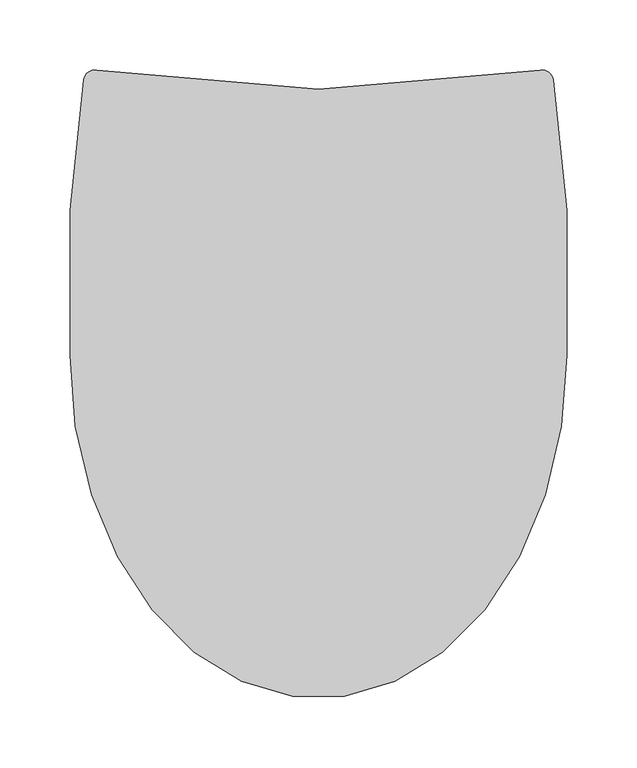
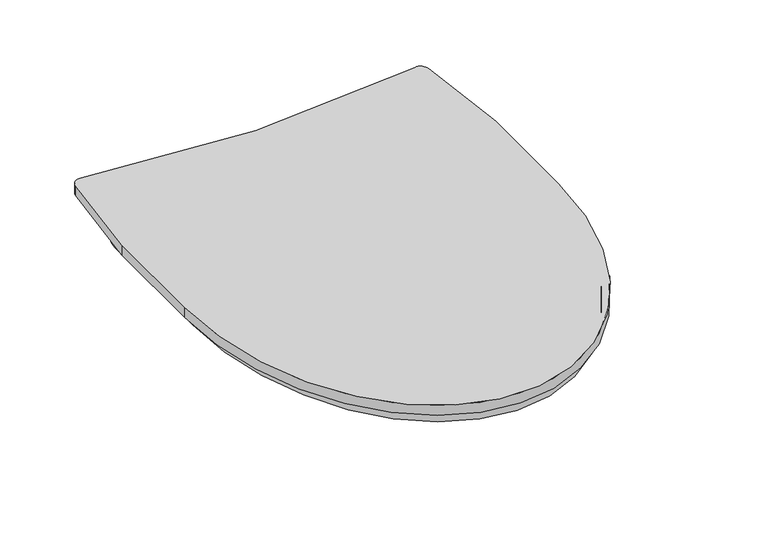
"""IFC4 building model written with IfcOpenShell, lengths in millimetres: sanitary terminal geometry, NLRS_74_PF_FB_toiletzitting nautic_wisa : wit_wisa_toiletzitting nautic."""

import ifcopenshell
import ifcopenshell.guid

model = None  # the IFC model being written
_history = None  # IfcOwnerHistory: only IFC2X3 demands one
_inside = {}  # id of a spatial element -> (the spatial element, [elements in it])
_under = {}  # id of a project, library or spatial element -> (it, [spatial elements below it])
_declared = {}  # id of a project -> (the project, [libraries it declares])
_typed = {}  # id of a type object -> (the type object, [elements of that type])
_made_of = {}  # id of a material, layer set ... -> (it, [elements and type objects made of it])


def new_model(schema):
    """Start an empty IFC model of exactly this schema.

    Asked for "IFC4X3", IfcOpenShell would pick the latest addendum, in which some entities
    have other attributes; the version numbers below select the first issue.
    IFC2X3 requires an IfcOwnerHistory on every rooted entity: one is made here for all.
    """
    global model, _history
    if schema == "IFC4X3":
        model = ifcopenshell.file(schema_version=(4, 3, 0, 0))
    else:
        model = ifcopenshell.file(schema=schema)
    _inside.clear()
    _under.clear()
    _declared.clear()
    _typed.clear()
    _made_of.clear()
    _history = None
    if model.schema == "IFC2X3":
        org = make("IfcOrganization", Name="unknown")
        user = make(
            "IfcPersonAndOrganization",
            ThePerson=make("IfcPerson", FamilyName="unknown"),
            TheOrganization=org,
        )
        app = make(
            "IfcApplication",
            ApplicationDeveloper=org,
            Version="unknown",
            ApplicationFullName="unknown",
            ApplicationIdentifier="unknown",
        )
        _history = make(
            "IfcOwnerHistory",
            OwningUser=user,
            OwningApplication=app,
            ChangeAction="ADDED",
            CreationDate=0,
        )
    return model


def make(cls, **values):
    """One entity of the class cls with the attributes given. An attribute that is None is left unset."""
    return model.create_entity(
        cls, **{name: value for name, value in values.items() if value is not None}
    )


def rooted(cls, **values):
    """An entity with a GlobalId (a new one), such as an element, a storey or a relation."""
    return make(cls, GlobalId=ifcopenshell.guid.new(), OwnerHistory=_history, **values)


def si_unit(unit_type, name, prefix=None):
    """IfcSIUnit, for example si_unit("LENGTHUNIT", "METRE", prefix="MILLI")."""
    return make("IfcSIUnit", UnitType=unit_type, Prefix=prefix, Name=name)


def assignment(units):
    """IfcUnitAssignment: the units of a project."""
    return None if units is None else make("IfcUnitAssignment", Units=units)


def point(xyz):
    """IfcCartesianPoint."""
    return None if xyz is None else make("IfcCartesianPoint", Coordinates=xyz)


def direction(xyz):
    """IfcDirection."""
    return None if xyz is None else make("IfcDirection", DirectionRatios=xyz)


def frame(location, z_axis=None, x_axis=None):
    """IfcAxis2Placement3D, a coordinate frame: its origin and axes. An axis left out is left unset."""
    return make(
        "IfcAxis2Placement3D",
        Location=point(location),
        Axis=direction(z_axis),
        RefDirection=direction(x_axis),
    )


def origin():
    """The frame at (0, 0, 0) with its axes left unset."""
    return frame((0.0, 0.0, 0.0))


def place(relative_to, where):
    """IfcLocalPlacement: puts the frame where relative to a parent placement (None: the world)."""
    return make(
        "IfcLocalPlacement", PlacementRelTo=relative_to, RelativePlacement=where
    )


def context(
    kind, dimensions, precision=None, world=None, true_north=None, identifier=None
):
    """IfcGeometricRepresentationContext, for example the 3D "Model" context."""
    return make(
        "IfcGeometricRepresentationContext",
        ContextIdentifier=identifier,
        ContextType=kind,
        CoordinateSpaceDimension=dimensions,
        Precision=precision,
        WorldCoordinateSystem=world,
        TrueNorth=true_north,
    )


def project(units=None, contexts=None):
    """IfcProject with its units and contexts."""
    return rooted(
        "IfcProject",
        Name="project",
        RepresentationContexts=contexts,
        UnitsInContext=assignment(units),
    )


def spatial(cls, under=None, at=None, **own):
    """A site, building, storey or space (cls), placed at a placement, below another one or the project."""
    s = rooted(cls, ObjectPlacement=at, **own)
    if under is not None:
        _under.setdefault(under.id(), (under, []))[1].append(s)
    return s


def polyline(points):
    """IfcPolyline through the points."""
    return make("IfcPolyline", Points=[point(p) for p in points])


def circle_curve(where, radius):
    """IfcCircle in the frame where."""
    return make("IfcCircle", Position=where, Radius=radius)


def ellipse_curve(where, semi_axis1, semi_axis2):
    """IfcEllipse in the frame where."""
    return make(
        "IfcEllipse", Position=where, SemiAxis1=semi_axis1, SemiAxis2=semi_axis2
    )


def trimmed(basis, trim1, trim2, sense, master):
    """IfcTrimmedCurve: the piece of a basis curve between two trims."""
    return make(
        "IfcTrimmedCurve",
        BasisCurve=basis,
        Trim1=trim1,
        Trim2=trim2,
        SenseAgreement=sense,
        MasterRepresentation=master,
    )


def shape(context_of_items, identifier, shape_type, items):
    """IfcShapeRepresentation: the items that make up one representation, for example the "Body"."""
    return make(
        "IfcShapeRepresentation",
        ContextOfItems=context_of_items,
        RepresentationIdentifier=identifier,
        RepresentationType=shape_type,
        Items=items,
    )


def source(mapping_origin, context_of_items, identifier, shape_type, items):
    """IfcRepresentationMap: a shape defined once, which mapped items show again and again."""
    return make(
        "IfcRepresentationMap",
        MappingOrigin=mapping_origin,
        MappedRepresentation=shape(context_of_items, identifier, shape_type, items),
    )


def transform(
    local_origin,
    x_axis=None,
    y_axis=None,
    z_axis=None,
    scale=None,
    scale2=None,
    scale3=None,
    uniform=True,
):
    """IfcCartesianTransformationOperator3D, or its non-uniform kind. x_axis, y_axis, z_axis: its Axis1, 2, 3."""
    if uniform:
        return make(
            "IfcCartesianTransformationOperator3D",
            Axis1=direction(x_axis),
            Axis2=direction(y_axis),
            LocalOrigin=point(local_origin),
            Scale=scale,
            Axis3=direction(z_axis),
        )
    return make(
        "IfcCartesianTransformationOperator3DnonUniform",
        Axis1=direction(x_axis),
        Axis2=direction(y_axis),
        LocalOrigin=point(local_origin),
        Scale=scale,
        Axis3=direction(z_axis),
        Scale2=scale2,
        Scale3=scale3,
    )


def mapped(mapping_source, mapping_target):
    """IfcMappedItem: shows the shape of a source again, moved by a transform."""
    return make(
        "IfcMappedItem", MappingSource=mapping_source, MappingTarget=mapping_target
    )


def made_of(thing, what):
    """Note that an element or type object is made of a material, layer set ...; save() writes the relation."""
    if what is not None:
        _made_of.setdefault(what.id(), (what, []))[1].append(thing)
    return thing


def element(
    cls,
    number,
    at=None,
    inside=None,
    cuts=None,
    type_object=None,
    material=None,
    context=None,
    identifier="Body",
    shape_type=None,
    held_by="IfcProductDefinitionShape",
    body=None,
    shapes=None,
    **own,
):
    """One element of the class cls, such as IfcWall. Its Tag is "e" and its number.

    at: its placement. inside: the storey or other place that contains it. cuts: it is an
    opening in that element (IfcRelVoidsElement). A single representation is given by context,
    identifier, shape_type and body (its items); several are given by shapes. held_by: the class
    of the entity that holds the representations. save() writes the other relations.
    """
    e = rooted(cls, Tag="e%d" % number, ObjectPlacement=at, **own)
    if body is not None:
        shapes = [shape(context, identifier, shape_type, body)]
    if shapes is not None:
        e.Representation = make(held_by, Representations=shapes)
    if inside is not None:
        _inside.setdefault(inside.id(), (inside, []))[1].append(e)
    if cuts is not None:
        rooted(
            "IfcRelVoidsElement", RelatingBuildingElement=cuts, RelatedOpeningElement=e
        )
    if type_object is not None:
        _typed.setdefault(type_object.id(), (type_object, []))[1].append(e)
    return made_of(e, material)


def aggregate(whole, parts):
    """IfcRelAggregates: a whole, such as a stair, and the parts it consists of."""
    return rooted("IfcRelAggregates", RelatingObject=whole, RelatedObjects=parts)


def save(model, path):
    """Write the relations noted so far, then the file.

    IfcRelAggregates (storeys below a building ...), IfcRelContainedInSpatialStructure (elements
    in a storey), IfcRelDefinesByType, IfcRelAssociatesMaterial and IfcRelDeclares: one each for
    every whole, place, type object, material and project.
    """
    for whole, parts in _under.values():
        aggregate(whole, parts)
    for where, things in _inside.values():
        rooted(
            "IfcRelContainedInSpatialStructure",
            RelatedElements=things,
            RelatingStructure=where,
        )
    for kind, things in _typed.values():
        rooted("IfcRelDefinesByType", RelatedObjects=things, RelatingType=kind)
    for what, things in _made_of.values():
        rooted("IfcRelAssociatesMaterial", RelatedObjects=things, RelatingMaterial=what)
    for by, libraries in _declared.values():
        rooted("IfcRelDeclares", RelatingContext=by, RelatedDefinitions=libraries)
    model.write(path)


def plane_surface(at):
    """IfcPlane: the flat surface through the origin of the frame at, square to its z axis."""
    return make("IfcPlane", Position=at)


def cylinder_surface(at, radius):
    """IfcCylindricalSurface: all points at the distance radius from the z axis of the frame at."""
    return make("IfcCylindricalSurface", Position=at, Radius=radius)


def revolved_surface(curve, axis_point, axis_direction):
    """IfcSurfaceOfRevolution: the curve turned about the line through axis_point along axis_direction."""
    return make(
        "IfcSurfaceOfRevolution",
        SweptCurve=make("IfcArbitraryOpenProfileDef", ProfileType="CURVE", Curve=curve),
        AxisPosition=make("IfcAxis1Placement", Location=point(axis_point), Axis=direction(axis_direction)),
    )


def extruded_surface(curve, direction_of_extrusion, depth):
    """IfcSurfaceOfLinearExtrusion: the curve pushed along a direction by depth."""
    return make(
        "IfcSurfaceOfLinearExtrusion",
        SweptCurve=make("IfcArbitraryOpenProfileDef", ProfileType="CURVE", Curve=curve),
        ExtrudedDirection=direction(direction_of_extrusion),
        Depth=depth,
    )


def advanced_brep(points, edges, surfaces, faces):
    """IfcAdvancedBrep: a solid bounded by faces that lie on surfaces and meet in shared edges.

    An edge is (start, end): straight between two places in points (the first is 0);
    or (start, end, curve); or (start, end, curve, False) where it runs against its curve.
    A face is (place in surfaces, loops), or (place, loops, False) where it looks against
    its surface's normal. A loop lists edges by number (the first is 1), with a minus sign
    where the edge is run from its end to its start. The first loop is the outer one.
    """
    corners = [point(p) for p in points]
    vertices = [make("IfcVertexPoint", VertexGeometry=c) for c in corners]
    made = []
    for start, end, *more in edges:
        made.append(
            make(
                "IfcEdgeCurve",
                EdgeStart=vertices[start],
                EdgeEnd=vertices[end],
                EdgeGeometry=more[0] if more else make("IfcPolyline", Points=[corners[start], corners[end]]),
                SameSense=more[1] if len(more) > 1 else True,
            )
        )
    hull = []
    for where, loops, *sense in faces:
        bounds = []
        for j, loop in enumerate(loops):
            ring = [make("IfcOrientedEdge", EdgeElement=made[abs(k) - 1], Orientation=k > 0) for k in loop]
            bounds.append(
                make(
                    "IfcFaceOuterBound" if j == 0 else "IfcFaceBound",
                    Bound=make("IfcEdgeLoop", EdgeList=ring),
                    Orientation=True,
                )
            )
        hull.append(make("IfcAdvancedFace", Bounds=bounds, FaceSurface=surfaces[where], SameSense=sense[0] if sense else True))
    return make("IfcAdvancedBrep", Outer=make("IfcClosedShell", CfsFaces=hull))


def sanitary_terminal_8e491f2c(model_context):
    return source(origin(), model_context, "Body", "AdvancedBrep", [
        advanced_brep(
        [(-177.5, -203.5020911, 10.0), (-177.5, -100.0151336, 10.0), (-167.7296209, -7.0561861, 10.0), (-158.4136562, 0.0, 10.0), (158.4136562, 0.0, 10.0), (167.7296209, -7.0561861, 10.0), (177.5, -100.0151336, 10.0), (177.5, -203.5020911, 10.0), (-177.5, -203.5020911, 20.0), (177.5, -203.5020911, 20.0), (177.5, -100.0151336, 20.0), (167.7296209, -7.0561861, 20.0), (158.4136562, 0.0, 20.0), (-158.4136562, 0.0, 20.0), (-167.7296209, -7.0561861, 20.0), (-177.5, -100.0151336, 20.0)],
        [
            (0, 1),
            (1, 2),
            (2, 3, circle_curve(frame((-159.7653271, -7.8932672, 10.0), z_axis=(0.0, 0.0, -1.0), x_axis=(1.0, 0.0, 0.0)), 8.0081634)),
            (3, 4, circle_curve(frame((0.0, 925.0781917, 10.0), z_axis=(0.0, 0.0, 1.0), x_axis=(1.0, 0.0, 0.0)), 938.543844)),
            (4, 5, circle_curve(frame((159.7653271, -7.8932672, 10.0), z_axis=(0.0, 0.0, -1.0), x_axis=(1.0, 0.0, 0.0)), 8.0081634)),
            (5, 6),
            (6, 7),
            (7, 0, ellipse_curve(frame((0.0, -203.5020911, 10.0), z_axis=(0.0, 0.0, -1.0), x_axis=(0.0, 1.0, 0.0)), 244.6771204, 177.5)),
            (8, 9, ellipse_curve(frame((0.0, -203.5020911, 20.0), z_axis=(0.0, 0.0, 1.0), x_axis=(0.0, 1.0, 0.0)), 244.6771204, 177.5)),
            (9, 10),
            (10, 11),
            (11, 12, circle_curve(frame((159.7653271, -7.8932672, 20.0), z_axis=(0.0, 0.0, 1.0), x_axis=(1.0, 0.0, 0.0)), 8.0081634)),
            (12, 13, circle_curve(frame((0.0, 925.0781917, 20.0), z_axis=(0.0, 0.0, -1.0), x_axis=(1.0, 0.0, 0.0)), 938.543844)),
            (13, 14, circle_curve(frame((-159.7653271, -7.8932672, 20.0), z_axis=(0.0, 0.0, 1.0), x_axis=(1.0, 0.0, 0.0)), 8.0081634)),
            (14, 15),
            (15, 8),
            (8, 0),
            (7, 9),
            (6, 10),
            (5, 11),
            (4, 12),
            (3, 13),
            (2, 14),
            (1, 15),
        ],
        [
            plane_surface(frame((0.0, 41.1750292, 10.0), z_axis=(0.0, 0.0, -1.0), x_axis=(1.0, 0.0, 0.0))),
            plane_surface(frame((0.0, 41.1750292, 20.0), z_axis=(0.0, 0.0, 1.0), x_axis=(-1.0, 0.0, 0.0))),
            extruded_surface(trimmed(ellipse_curve(frame((0.0, -203.5020911, 0.0), z_axis=(0.0, 0.0, 1.0), x_axis=(0.0, 1.0, 0.0)), 244.6771204, 177.5), [point((-177.5, -203.5020911, 0.0))], [point((177.5, -203.5020911, 0.0))], True, "CARTESIAN"), (0.0, 0.0, 10.0), 10.0),
            plane_surface(frame((177.5, -203.5020911, 20.0), z_axis=(1.0, 0.0, 0.0), x_axis=(0.0, 0.0, -1.0))),
            plane_surface(frame((177.5, -100.0151336, 20.0), z_axis=(0.9945218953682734, 0.10452846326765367, 0.0), x_axis=(0.0, 0.0, -1.0))),
            cylinder_surface(frame((159.7653271, -7.8932672, 10.0), z_axis=(0.0, 0.0, 1.0), x_axis=(1.0, 0.0, 0.0)), 8.0081634),
            revolved_surface(polyline([(938.543844, 925.0781917, 10.0), (938.543844, 925.0781917, 20.0)]), (0.0, 925.0781917, 10.0), (0.0, 0.0, -1.0)),
            cylinder_surface(frame((-159.7653271, -7.8932672, 10.0), z_axis=(0.0, 0.0, 1.0), x_axis=(1.0, 0.0, 0.0)), 8.0081634),
            plane_surface(frame((-167.7296209, -7.0561861, 20.0), z_axis=(-0.9945218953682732, 0.104528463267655, 0.0), x_axis=(0.0, 0.0, -1.0))),
            plane_surface(frame((-177.5, -100.0151336, 20.0), z_axis=(-1.0, 0.0, 0.0), x_axis=(0.0, 0.0, -1.0))),
        ],
        [
            (0, [[1, 2, 3, 4, 5, 6, 7, 8]]),
            (1, [[9, 10, 11, 12, 13, 14, 15, 16]]),
            (2, [[-9, 17, -8, 18]]),
            (3, [[-10, -18, -7, 19]]),
            (4, [[-11, -19, -6, 20]]),
            (5, [[-12, -20, -5, 21]]),
            (6, [[-13, -21, -4, 22]]),
            (7, [[-14, -22, -3, 23]]),
            (8, [[-15, -23, -2, 24]]),
            (9, [[-16, -24, -1, -17]]),
        ],
    ),
        advanced_brep(
        [(-170.0, -203.5020911, 10.0), (170.0, -203.5020911, 10.0), (170.0, -76.6974568, 10.0), (133.4173771, -40.1148339, 10.0), (116.6038173, -40.1148339, 10.0), (116.6038173, -6.1941084, 10.0), (-116.6038173, -6.1941084, 10.0), (-116.6038173, -40.1148339, 10.0), (-133.4173771, -40.1148339, 10.0), (-170.0, -76.6974568, 10.0), (-101.8045411, -203.5020911, 10.0), (101.8045411, -203.5020911, 10.0), (-170.0, -203.5020911, 0.0), (-170.0, -76.6974568, 0.0), (-133.4173771, -40.1148339, 0.0), (-116.6038173, -40.1148339, 0.0), (-116.6038173, -6.1941084, 0.0), (116.6038173, -6.1941084, 0.0), (116.6038173, -40.1148339, 0.0), (133.4173771, -40.1148339, 0.0), (170.0, -76.6974568, 0.0), (170.0, -203.5020911, 0.0), (-101.8045411, -203.5020911, 0.0), (101.8045411, -203.5020911, 0.0)],
        [
            (0, 1, ellipse_curve(frame((0.0, -203.5020911, 10.0), z_axis=(0.0, 0.0, 1.0), x_axis=(0.0, 1.0, 0.0)), 240.0, 170.0)),
            (1, 2),
            (2, 3, circle_curve(frame((133.4173771, -76.6974568, 10.0), z_axis=(0.0, 0.0, 1.0), x_axis=(1.0, 0.0, 0.0)), 36.5826229)),
            (3, 4),
            (4, 5),
            (5, 6, circle_curve(frame((0.0, 925.0781917, 10.0), z_axis=(0.0, 0.0, -1.0), x_axis=(1.0, 0.0, 0.0)), 938.543844)),
            (6, 7),
            (7, 8),
            (8, 9, circle_curve(frame((-133.4173771, -76.6974568, 10.0), z_axis=(0.0, 0.0, 1.0), x_axis=(1.0, 0.0, 0.0)), 36.5826229)),
            (9, 0),
            (10, 11, circle_curve(frame((0.0, -203.5020911, 10.0), z_axis=(0.0, 0.0, -1.0), x_axis=(1.0, 0.0, 0.0)), 101.8045411)),
            (11, 10, ellipse_curve(frame((0.0, -203.5020911, 10.0), z_axis=(0.0, 0.0, -1.0), x_axis=(0.0, 1.0, 0.0)), 190.0, 101.8045411)),
            (12, 13),
            (13, 14, circle_curve(frame((-133.4173771, -76.6974568, 0.0), z_axis=(0.0, 0.0, -1.0), x_axis=(1.0, 0.0, 0.0)), 36.5826229)),
            (14, 15),
            (15, 16),
            (16, 17, circle_curve(frame((0.0, 925.0781917, 0.0), z_axis=(0.0, 0.0, 1.0), x_axis=(1.0, 0.0, 0.0)), 938.543844)),
            (17, 18),
            (18, 19),
            (19, 20, circle_curve(frame((133.4173771, -76.6974568, 0.0), z_axis=(0.0, 0.0, -1.0), x_axis=(1.0, 0.0, 0.0)), 36.5826229)),
            (20, 21),
            (21, 12, ellipse_curve(frame((0.0, -203.5020911, 0.0), z_axis=(0.0, 0.0, -1.0), x_axis=(0.0, 1.0, 0.0)), 240.0, 170.0)),
            (22, 23, ellipse_curve(frame((0.0, -203.5020911, 0.0), z_axis=(0.0, 0.0, 1.0), x_axis=(0.0, 1.0, 0.0)), 190.0, 101.8045411)),
            (23, 22, circle_curve(frame((0.0, -203.5020911, 0.0), z_axis=(0.0, 0.0, 1.0), x_axis=(1.0, 0.0, 0.0)), 101.8045411)),
            (10, 22),
            (23, 11),
            (0, 12),
            (21, 1),
            (20, 2),
            (19, 3),
            (18, 4),
            (17, 5),
            (16, 6),
            (15, 7),
            (14, 8),
            (13, 9),
        ],
        [
            plane_surface(frame((101.8045411, -203.5020911, 10.0), z_axis=(0.0, 0.0, 1.0), x_axis=(0.0, -1.0, 0.0))),
            plane_surface(frame((101.8045411, -203.5020911, 0.0), z_axis=(0.0, 0.0, -1.0), x_axis=(0.0, 1.0, 0.0))),
            revolved_surface(polyline([(101.8045411, -203.5020911, 0.0), (101.8045411, -203.5020911, 10.0)]), (0.0, -203.5020911, 0.0), (0.0, 0.0, -1.0)),
            extruded_surface(trimmed(ellipse_curve(frame((0.0, -203.5020911, -10.0), z_axis=(0.0, 0.0, -1.0), x_axis=(0.0, 1.0, 0.0)), 190.0, 101.8045411), [point((101.8045411, -203.5020911, -10.0))], [point((-101.8045411, -203.5020911, -10.0))], True, "CARTESIAN"), (0.0, 0.0, 10.0), 10.0),
            extruded_surface(trimmed(ellipse_curve(frame((0.0, -203.5020911, -10.0), z_axis=(0.0, 0.0, 1.0), x_axis=(0.0, 1.0, 0.0)), 240.0, 170.0), [point((-170.0, -203.5020911, -10.0))], [point((170.0, -203.5020911, -10.0))], True, "CARTESIAN"), (0.0, 0.0, 10.0), 10.0),
            plane_surface(frame((170.0, -203.5020911, 10.0), z_axis=(1.0, 0.0, 0.0), x_axis=(0.0, 0.0, -1.0))),
            cylinder_surface(frame((133.4173771, -76.6974568, 0.0), z_axis=(0.0, 0.0, 1.0), x_axis=(1.0, 0.0, 0.0)), 36.5826229),
            plane_surface(frame((133.4173771, -40.1148339, 10.0), z_axis=(0.0, 1.0, 0.0), x_axis=(0.0, 0.0, -1.0))),
            plane_surface(frame((116.6038173, -40.1148339, 10.0), z_axis=(1.0, 0.0, 0.0), x_axis=(0.0, 0.0, -1.0))),
            revolved_surface(polyline([(938.543844, 925.0781917, 0.0), (938.543844, 925.0781917, 10.0)]), (0.0, 925.0781917, 0.0), (0.0, 0.0, -1.0)),
            plane_surface(frame((-116.6038173, -6.1941084, 10.0), z_axis=(-1.0, 0.0, 0.0), x_axis=(0.0, 0.0, -1.0))),
            plane_surface(frame((-116.6038173, -40.1148339, 10.0), z_axis=(0.0, 1.0, 0.0), x_axis=(0.0, 0.0, -1.0))),
            cylinder_surface(frame((-133.4173771, -76.6974568, 0.0), z_axis=(0.0, 0.0, 1.0), x_axis=(1.0, 0.0, 0.0)), 36.5826229),
            plane_surface(frame((-170.0, -76.6974568, 10.0), z_axis=(-1.0, 0.0, 0.0), x_axis=(0.0, 0.0, -1.0))),
        ],
        [
            (0, [[1, 2, 3, 4, 5, 6, 7, 8, 9, 10], [11, 12]]),
            (1, [[13, 14, 15, 16, 17, 18, 19, 20, 21, 22], [23, 24]]),
            (2, [[-11, 25, -24, 26]]),
            (3, [[-12, -26, -23, -25]]),
            (4, [[-1, 27, -22, 28]]),
            (5, [[-2, -28, -21, 29]]),
            (6, [[-3, -29, -20, 30]]),
            (7, [[-4, -30, -19, 31]]),
            (8, [[-5, -31, -18, 32]]),
            (9, [[-6, -32, -17, 33]]),
            (10, [[-7, -33, -16, 34]]),
            (11, [[-8, -34, -15, 35]]),
            (12, [[-9, -35, -14, 36]]),
            (13, [[-10, -36, -13, -27]]),
        ],
    ),
    ])


if __name__ == "__main__":
    model = new_model("IFC4")
    model_context = context("Model", 3, world=origin())
    ifc_project = project(units=[si_unit("LENGTHUNIT", "METRE", prefix="MILLI")], contexts=[model_context])
    site = spatial("IfcSite", under=ifc_project)
    building = spatial("IfcBuilding", under=site)
    placement = place(None, origin())
    sanitary_terminal_shape = sanitary_terminal_8e491f2c(model_context)
    element("IfcSanitaryTerminal", 1, ObjectType="NLRS_74_PF_FB_toiletzitting nautic_wisa : wit_wisa_toiletzitting nautic", at=placement, inside=building, context=model_context, shape_type="MappedRepresentation", body=[
        mapped(sanitary_terminal_shape, transform((0.0, 0.0, 0.0), x_axis=(1.0, 0.0, 0.0), y_axis=(0.0, 1.0, 0.0), z_axis=(0.0, 0.0, 1.0))),
    ])
    save(model, "model.ifc")
